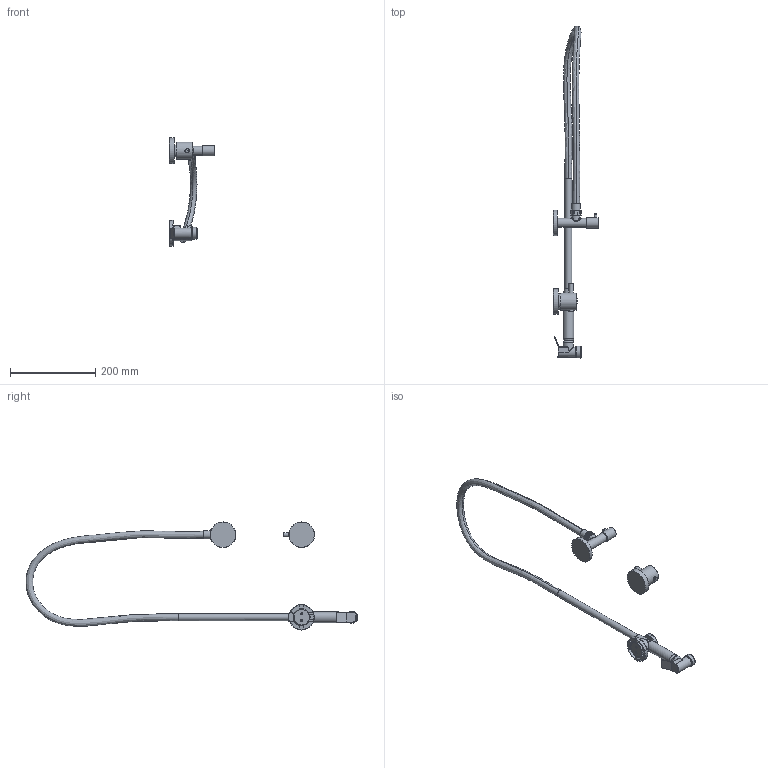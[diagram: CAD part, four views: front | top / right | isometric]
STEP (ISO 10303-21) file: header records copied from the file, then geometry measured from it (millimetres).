
FILE_DESCRIPTION(/* description */ ('STEP AP214'),/* implementation_level */ '2;1');
FILE_NAME(/* name */ 'IND-SHATTAF-163.step',/* time_stamp */ '2024-10-30T13:29:49+01:00',/* author */ (''),/* organization */ (''),/* preprocessor_version */ 'ST-DEVELOPER v20',/* originating_system */ 'Autodesk Translation Framework v13.20.0.188',/* authorisation */ '');
FILE_SCHEMA (('AUTOMOTIVE_DESIGN { 1 0 10303 214 3 1 1 }'));
Length unit declared in the file: millimetre
Products named in the file (10): IND-SHATTAF-163; PEX-230; Shattaf-Bracket-Assy; Shattaf-Bracket-Shroud; Shattaf-Bracket-Holder - 12mm down; Shattaf-Bracket-WB; socket set screw cone point_iso_ISO 4027 - M5 x 12-N; Shattaf - Handset mock up; 163 DUMB SOLID; Imported59
Assembly tree (9 placements, depth 3):
  IND-SHATTAF-163
    PEX-230
    Shattaf-Bracket-Assy
      Shattaf-Bracket-Shroud
      Shattaf-Bracket-Holder - 12mm down
      Shattaf-Bracket-WB
      socket set screw cone point_iso_ISO 4027 - M5 x 12-N
      Shattaf - Handset mock up
    163 DUMB SOLID
    Imported59
Bounding box: 105.8 x 778.14 x 253.41 mm (x, y, z)
Volume: 504454 mm3; surface area: 137672.8 mm2
Topology: 8 solids, 9 shells, 501 faces, 1228 edges, 760 vertices
Faces by surface type: cylinder 220, plane 108, bspline 59, torus 53, cone 34, sphere 27
Full cylindrical faces by diameter (mm): 1 x28, 4.2 x30, 5 x1, 5.066 x29, 5.1 x4, 6 x1, 8.2 x2, 10 x2, 11 x1, 15 x1, 16 x1, 16.5 x1, 18.536 x5, 18.7 x4, 19 x1, 19.5 x2, 20.5 x5, 20.699 x4, 21 x1, 24 x3, 25 x1, 26 x1, 28 x1, 29 x1, 32 x1, 32.5 x1, 36 x1, 40 x1, 60 x3
Entity records: 37481 total; most frequent: CARTESIAN_POINT 26296, ORIENTED_EDGE 2392, DIRECTION 2159, EDGE_CURVE 1196, AXIS2_PLACEMENT_3D 913, VERTEX_POINT 760, EDGE_LOOP 560, FACE_OUTER_BOUND 501
